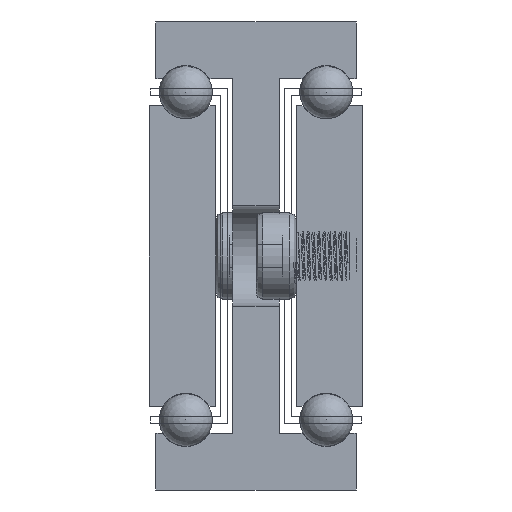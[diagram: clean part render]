
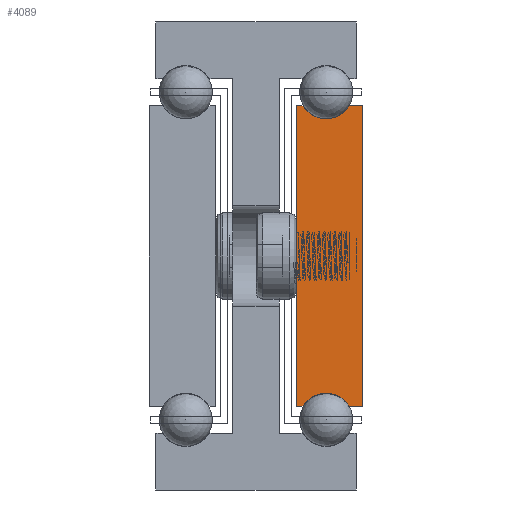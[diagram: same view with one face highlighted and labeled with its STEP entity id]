
A CAD part, front view. The second image highlights one B-rep face of the part: STEP entity #4089.
In plain terms, the highlighted planar face has unit normal (0, -1, 0).
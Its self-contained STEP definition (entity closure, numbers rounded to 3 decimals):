
#569=PLANE('',#4421);
#671=FACE_OUTER_BOUND('',#917,.T.);
#917=EDGE_LOOP('',(#3348,#3349,#3350,#3351,#3352,#3353,#3354,#3355));
#1350=LINE('',#6336,#1562);
#1353=LINE('',#6342,#1565);
#1357=LINE('',#6354,#1569);
#1360=LINE('',#6360,#1572);
#1363=LINE('',#6366,#1575);
#1367=LINE('',#6376,#1579);
#1562=VECTOR('',#5082,1.);
#1565=VECTOR('',#5087,1.);
#1569=VECTOR('',#5099,1.);
#1572=VECTOR('',#5104,1.);
#1575=VECTOR('',#5109,1.);
#1579=VECTOR('',#5121,1.);
#1737=CIRCLE('',#4412,4.);
#1739=CIRCLE('',#4418,4.);
#2094=VERTEX_POINT('',#6333);
#2095=VERTEX_POINT('',#6335);
#2097=VERTEX_POINT('',#6341);
#2099=VERTEX_POINT('',#6347);
#2101=VERTEX_POINT('',#6353);
#2103=VERTEX_POINT('',#6359);
#2105=VERTEX_POINT('',#6365);
#2107=VERTEX_POINT('',#6371);
#2656=EDGE_CURVE('',#2095,#2094,#1350,.T.);
#2659=EDGE_CURVE('',#2097,#2095,#1353,.T.);
#2662=EDGE_CURVE('',#2099,#2097,#1737,.T.);
#2665=EDGE_CURVE('',#2101,#2099,#1357,.T.);
#2668=EDGE_CURVE('',#2103,#2101,#1360,.T.);
#2671=EDGE_CURVE('',#2105,#2103,#1363,.T.);
#2674=EDGE_CURVE('',#2107,#2105,#1739,.T.);
#2677=EDGE_CURVE('',#2094,#2107,#1367,.T.);
#3348=ORIENTED_EDGE('',*,*,#2677,.T.);
#3349=ORIENTED_EDGE('',*,*,#2674,.T.);
#3350=ORIENTED_EDGE('',*,*,#2671,.T.);
#3351=ORIENTED_EDGE('',*,*,#2668,.T.);
#3352=ORIENTED_EDGE('',*,*,#2665,.T.);
#3353=ORIENTED_EDGE('',*,*,#2662,.T.);
#3354=ORIENTED_EDGE('',*,*,#2659,.T.);
#3355=ORIENTED_EDGE('',*,*,#2656,.T.);
#4089=ADVANCED_FACE('',(#671),#569,.T.);
#4412=AXIS2_PLACEMENT_3D('',#6348,#5093,#5094);
#4418=AXIS2_PLACEMENT_3D('',#6372,#5115,#5116);
#4421=AXIS2_PLACEMENT_3D('',#6378,#5124,#5125);
#5082=DIRECTION('',(0.,0.,1.));
#5087=DIRECTION('',(1.,0.,0.));
#5093=DIRECTION('center_axis',(0.,1.,0.));
#5094=DIRECTION('ref_axis',(0.866,0.,0.5));
#5099=DIRECTION('',(1.,0.,0.));
#5104=DIRECTION('',(0.,0.,-1.));
#5109=DIRECTION('',(-1.,0.,0.));
#5115=DIRECTION('center_axis',(0.,1.,0.));
#5116=DIRECTION('ref_axis',(-0.866,0.,-0.5));
#5121=DIRECTION('',(-1.,0.,0.));
#5124=DIRECTION('center_axis',(0.,-1.,0.));
#5125=DIRECTION('ref_axis',(-1.,0.,0.));
#6333=CARTESIAN_POINT('',(3362.28,575.218,647.5));
#6335=CARTESIAN_POINT('',(3362.28,575.218,602.5));
#6336=CARTESIAN_POINT('',(3362.28,575.218,647.5));
#6341=CARTESIAN_POINT('',(3360.244,575.218,602.5));
#6342=CARTESIAN_POINT('',(3362.28,575.218,602.5));
#6347=CARTESIAN_POINT('',(3353.316,575.218,602.5));
#6348=CARTESIAN_POINT('Origin',(3356.78,575.218,600.5));
#6353=CARTESIAN_POINT('',(3352.28,575.218,602.5));
#6354=CARTESIAN_POINT('',(3353.316,575.218,602.5));
#6359=CARTESIAN_POINT('',(3352.28,575.218,647.5));
#6360=CARTESIAN_POINT('',(3352.28,575.218,602.5));
#6365=CARTESIAN_POINT('',(3353.316,575.218,647.5));
#6366=CARTESIAN_POINT('',(3352.28,575.218,647.5));
#6371=CARTESIAN_POINT('',(3360.244,575.218,647.5));
#6372=CARTESIAN_POINT('Origin',(3356.78,575.218,649.5));
#6376=CARTESIAN_POINT('',(3360.244,575.218,647.5));
#6378=CARTESIAN_POINT('Origin',(3357.286,575.218,625.));
